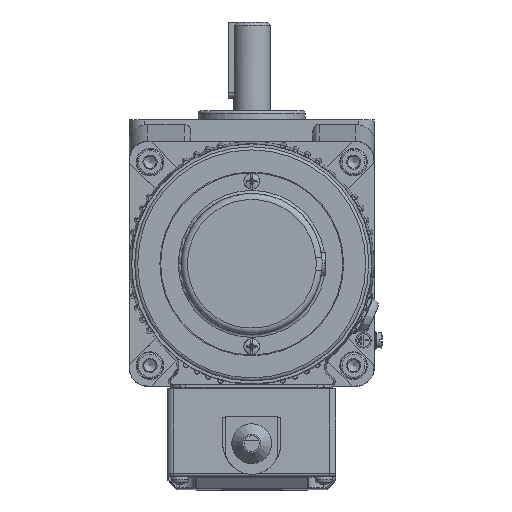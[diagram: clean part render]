
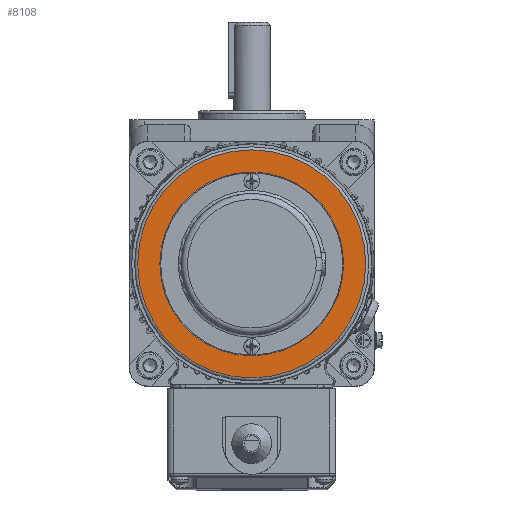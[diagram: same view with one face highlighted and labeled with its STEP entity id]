
A CAD part, left-side view. The second image highlights one B-rep face of the part: STEP entity #8108.
In plain terms, the highlighted planar face has unit normal (-1, 0, 0).
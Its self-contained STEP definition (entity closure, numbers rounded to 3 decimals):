
#2309=PLANE('',#28074);
#8108=ADVANCED_FACE('',(#9259,#9260),#2309,.F.);
#9259=FACE_BOUND('',#10517,.T.);
#9260=FACE_BOUND('',#10518,.T.);
#10517=EDGE_LOOP('',(#15477));
#10518=EDGE_LOOP('',(#15478));
#15477=ORIENTED_EDGE('',*,*,#23548,.T.);
#15478=ORIENTED_EDGE('',*,*,#23407,.F.);
#20326=VERTEX_POINT('',#41351);
#20407=VERTEX_POINT('',#41960);
#23407=EDGE_CURVE('',#20326,#20326,#26001,.T.);
#23548=EDGE_CURVE('',#20407,#20407,#26032,.T.);
#26001=CIRCLE('',#27992,30.);
#26032=CIRCLE('',#28073,37.25);
#27992=AXIS2_PLACEMENT_3D('',#41350,#33082,#33083);
#28073=AXIS2_PLACEMENT_3D('',#41959,#33299,#33300);
#28074=AXIS2_PLACEMENT_3D('',#41961,#33301,#33302);
#33082=DIRECTION('',(-1.,0.,0.));
#33083=DIRECTION('',(0.,0.,1.));
#33299=DIRECTION('',(-1.,0.,0.));
#33300=DIRECTION('',(0.,0.,-1.));
#33301=DIRECTION('',(1.,0.,0.));
#33302=DIRECTION('',(0.,0.,-1.));
#41350=CARTESIAN_POINT('',(-86.,40.,40.));
#41351=CARTESIAN_POINT('',(-86.,40.,70.));
#41959=CARTESIAN_POINT('',(-86.,40.,40.));
#41960=CARTESIAN_POINT('',(-86.,40.,2.75));
#41961=CARTESIAN_POINT('',(-86.,40.,78.25));
